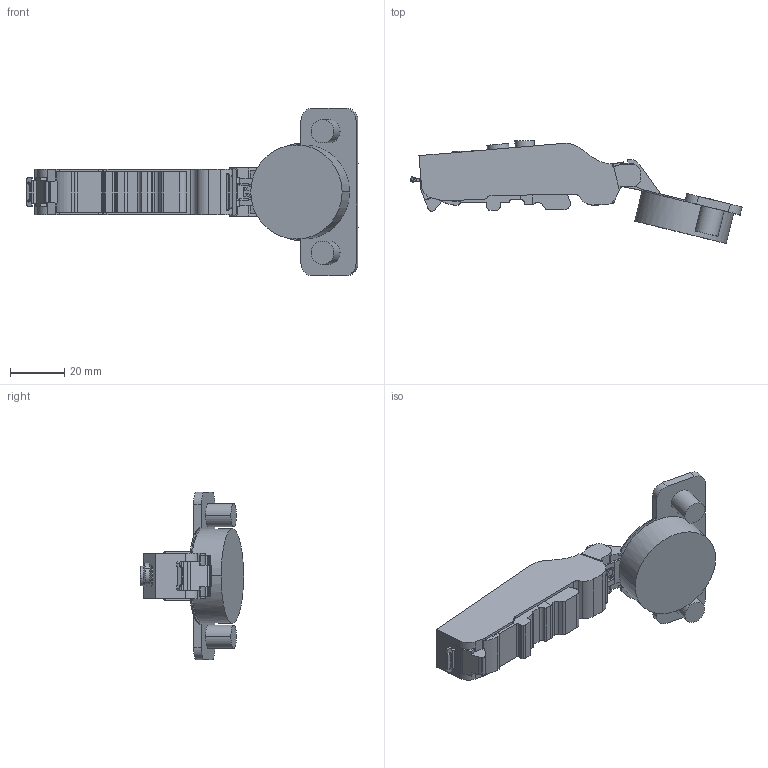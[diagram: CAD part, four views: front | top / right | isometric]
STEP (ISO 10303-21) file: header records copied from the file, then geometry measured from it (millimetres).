
FILE_DESCRIPTION (( 'STEP AP203' ), '1' );
FILE_NAME ('C81A875NFAB DTC 3D OPEN.STEP', '2024-07-24T08:19:22', ( '微软用户' ), ( '微软中国' ), 'SwSTEP 2.0', 'SolidWorks 2021', '' );
FILE_SCHEMA (( 'CONFIG_CONTROL_DESIGN' ));
Length unit declared in the file: millimetre
Products named in the file (1): C81A875NFAB DTC 3D OPEN
Bounding box: 122.83 x 38.13 x 62 mm (x, y, z)
Volume: 42193.5 mm3; surface area: 12912.1 mm2
Topology: 1 solids, 2 shells, 389 faces, 1116 edges, 737 vertices
Faces by surface type: plane 209, cylinder 138, torus 20, bspline 16, cone 6
Entity records: 13418 total; most frequent: CARTESIAN_POINT 3306, ORIENTED_EDGE 2232, DIRECTION 2000, EDGE_CURVE 1116, VERTEX_POINT 737, AXIS2_PLACEMENT_3D 678, LINE 644, VECTOR 644
